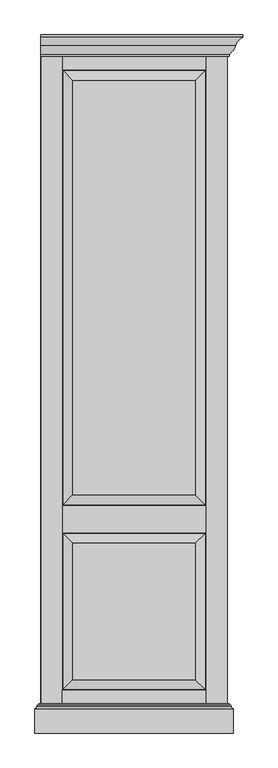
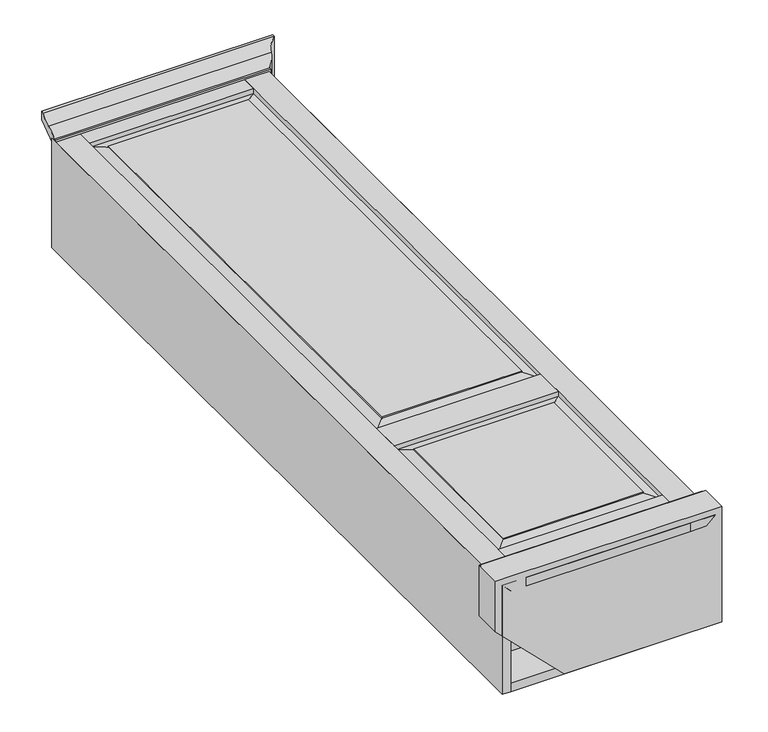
"""IFC4 building model written with IfcOpenShell, lengths in millimetres: proxy geometry, CCN^BRIGHTON_L4- RIGHT END WARDORBE-END DOOR PARTS SOLID."""

from ifc_helpers import new_model, si_unit, frame, origin, origin_with_axes, place, context, project, spatial, polyline, circle_curve, ellipse_curve, outline, extrude, faceted_brep, source, transform, mapped, element, save
from ifc_brep_helpers import plane_surface, cylinder_surface, revolved_surface, advanced_brep


def generic_models_ce6fbba6(model_context):
    return source(origin(), model_context, "Body", "SolidModel", [
        extrude(outline(polyline([(584.2, 2209.8), (558.8, 2209.8), (558.8, 2228.85), (584.2, 2228.85), (584.2, 2209.8)])), origin_with_axes(), (0.0, 0.0, 1.0), 285.75),
        extrude(outline(polyline([(304.8, 558.8), (330.2, 584.2), (330.2, 514.35), (304.8, 514.35), (304.8, 558.8)])), frame((0.0, 0.0, 0.0), z_axis=(0.0, 1.0, 0.0), x_axis=(0.0, 0.0, 1.0)), (0.0, 0.0, 1.0), 2228.85),
        extrude(outline(polyline([(44.45, 0.0), (44.45, 139.7), (514.35, 139.7), (514.35, 0.0), (44.45, 0.0)])), frame((0.0, 0.0, 304.8), z_axis=(0.0, 0.0, 1.0), x_axis=(1.0, 0.0, 0.0)), (0.0, 0.0, 1.0), 25.4),
        advanced_brep(
        [(152.4, 0.0, 0.0), (152.4, 95.25, 0.0), (590.55, 95.25, 0.0), (590.55, 92.075, 0.0), (596.9, 85.725, 0.0), (603.25, 79.375, 0.0), (603.25, 0.0, 0.0), (-31.75, 95.25, 184.15), (-31.75, 95.25, 336.55), (590.55, 95.25, 336.55), (603.25, 0.0, 349.25), (-44.45, 0.0, 349.25), (-44.45, 0.0, 196.85), (-44.45, 79.375, 196.85), (-38.1, 85.725, 190.5), (-31.75, 92.075, 184.15), (-31.75, 92.075, 336.55), (-38.1, 85.725, 342.9), (-44.45, 79.375, 349.25), (603.25, 79.375, 349.25), (596.9, 85.725, 342.9), (590.55, 92.075, 336.55)],
        [
            (0, 1),
            (1, 2),
            (2, 3),
            (3, 4, circle_curve(frame((590.55, 85.725, 0.0), z_axis=(0.0, 0.0, -1.0), x_axis=(-1.0, 0.0, 0.0)), 6.35)),
            (4, 5, circle_curve(frame((603.25, 85.725, 0.0), z_axis=(0.0, 0.0, 1.0), x_axis=(-1.0, 0.0, 0.0)), 6.35)),
            (5, 6),
            (6, 0),
            (1, 7),
            (7, 8),
            (8, 9),
            (9, 2),
            (6, 10),
            (10, 11),
            (11, 12),
            (12, 0),
            (12, 13),
            (13, 14, ellipse_curve(frame((-44.45, 85.725, 196.85), z_axis=(0.7071067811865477, 0.0, 0.7071067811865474), x_axis=(-0.7071067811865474, 0.0, 0.7071067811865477)), 8.9802561, 6.35)),
            (14, 15, ellipse_curve(frame((-31.75, 85.725, 184.15), z_axis=(-0.7071067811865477, 0.0, -0.7071067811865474), x_axis=(-0.7071067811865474, 0.0, 0.7071067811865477)), 8.9802561, 6.35)),
            (15, 7),
            (15, 16),
            (16, 8),
            (14, 17),
            (17, 16, ellipse_curve(frame((-31.75, 85.725, 336.55), z_axis=(-0.7071067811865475, 0.0, -0.7071067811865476), x_axis=(-0.7071067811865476, 0.0, 0.7071067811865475)), 8.9802561, 6.35)),
            (13, 18),
            (18, 17, ellipse_curve(frame((-44.45, 85.725, 349.25), z_axis=(0.7071067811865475, 0.0, 0.7071067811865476), x_axis=(-0.7071067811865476, 0.0, 0.7071067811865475)), 8.9802561, 6.35)),
            (11, 18),
            (18, 19),
            (19, 20, ellipse_curve(frame((603.25, 85.725, 349.25), z_axis=(0.7071067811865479, 0.0, -0.7071067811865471), x_axis=(0.7071067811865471, 0.0, 0.7071067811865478)), 8.9802561, 6.35)),
            (20, 17),
            (9, 21),
            (21, 3),
            (21, 20, ellipse_curve(frame((590.55, 85.725, 336.55), z_axis=(0.7071067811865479, 0.0, -0.7071067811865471), x_axis=(-0.7071067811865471, 0.0, -0.7071067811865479)), 8.9802561, 6.35)),
            (20, 4),
            (19, 5),
            (16, 21),
            (19, 10),
        ],
        [
            plane_surface(frame((603.25, 0.0, 0.0), z_axis=(0.0, 0.0, -1.0), x_axis=(-1.0, 0.0, 0.0))),
            plane_surface(frame((288.925, 95.25, 174.625), z_axis=(0.0, 1.0, 0.0), x_axis=(0.0, 0.0, 1.0))),
            plane_surface(frame((288.925, 0.0, 174.625), z_axis=(0.0, -1.0, 0.0), x_axis=(0.0, 0.0, -1.0))),
            plane_surface(frame((-34.925, 63.5, 187.325), z_axis=(-0.7071067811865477, 0.0, -0.7071067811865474), x_axis=(-0.7071067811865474, 0.0, 0.7071067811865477))),
            plane_surface(frame((-31.75, 95.25, 0.0), z_axis=(-1.0, 0.0, 0.0), x_axis=(0.0, -1.0, 0.0))),
            cylinder_surface(frame((-31.75, 85.725, 0.0), z_axis=(0.0, 0.0, 1.0), x_axis=(-1.0, 0.0, 0.0)), 6.35),
            revolved_surface(polyline([(-50.800000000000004, 85.725, 355.5999999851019), (-50.800000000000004, 85.725, 190.5)]), (-44.45, 85.725, 0.0), (0.0, 0.0, 1.0)),
            plane_surface(frame((-44.45, 79.375, 0.0), z_axis=(-1.0, 0.0, 0.0), x_axis=(0.0, -1.0, 0.0))),
            revolved_surface(polyline([(609.5999999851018, 85.725, 342.9), (-50.79999998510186, 85.725, 342.9)]), (-25.4, 85.725, 349.25), (1.0, 0.0, 0.0)),
            plane_surface(frame((590.55, 92.075, 336.55), z_axis=(1.0, 0.0, 0.0), x_axis=(0.0, 1.0, 0.0))),
            cylinder_surface(frame((590.55, 85.725, 336.55), z_axis=(0.0, 0.0, -1.0), x_axis=(-1.0, 0.0, 0.0)), 6.35),
            revolved_surface(polyline([(596.9, 85.725, 0.0), (596.9, 85.725, 355.5999999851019)]), (603.25, 85.725, 349.25), (0.0, 0.0, -1.0)),
            plane_surface(frame((-25.4, 92.075, 336.55), z_axis=(0.0, 0.0, 1.0), x_axis=(0.0, 1.0, 0.0))),
            cylinder_surface(frame((-25.4, 85.725, 336.55), z_axis=(1.0, 0.0, 0.0), x_axis=(0.0, 0.0, -1.0)), 6.35),
            plane_surface(frame((603.25, 0.0, 349.25), z_axis=(1.0, 0.0, 0.0), x_axis=(0.0, 0.0, -1.0))),
            plane_surface(frame((-25.4, 0.0, 349.25), z_axis=(0.0, 0.0, 1.0), x_axis=(1.0, 0.0, 0.0))),
        ],
        [
            (0, [[1, 2, 3, 4, 5, 6, 7]]),
            (1, [[-2, 8, 9, 10, 11]]),
            (2, [[-7, 12, 13, 14, 15]]),
            (3, [[-15, 16, 17, 18, 19, -8, -1]]),
            (4, [[-19, 20, 21, -9]]),
            (5, [[-18, 22, 23, -20]]),
            (6, [[-17, 24, 25, -22]]),
            (7, [[-16, -14, 26, -24]]),
            (8, [[-25, 27, 28, 29]]),
            (9, [[30, 31, -3, -11]]),
            (10, [[32, 33, -4, -31]]),
            (11, [[-28, 34, -5, -33]]),
            (12, [[-21, 35, -30, -10]]),
            (13, [[-23, -29, -32, -35]]),
            (14, [[-34, 36, -12, -6]]),
            (15, [[-27, -26, -13, -36]]),
        ],
    ),
        extrude(outline(polyline([(304.8, 0.0), (330.2, -25.4), (0.0, -25.4), (0.0, 0.0), (304.8, 0.0)])), frame((0.0, 0.0, 0.0), z_axis=(0.0, 1.0, 0.0), x_axis=(0.0, 0.0, 1.0)), (0.0, 0.0, 1.0), 2228.85),
        advanced_brep(
        [(560.6345153, 2209.8, 0.0), (609.5440118, 2279.65, 0.0), (635.0, 2279.65, 0.0), (635.0, 2271.7252, 0.0), (610.9133719, 2245.7438145, 0.0), (589.7626, 2216.5400246, 0.0), (589.7626, 2209.8, 0.0), (560.6345153, 2209.8, 306.6345153), (589.7626, 2209.8, 335.7626), (-25.4, 2209.8, 335.7626), (-25.4, 2209.8, 306.6345153), (609.5440118, 2279.65, 355.5440118), (-25.4, 2279.65, 355.5440118), (-25.4, 2216.5400246, 335.7626), (-25.4, 2245.7438145, 356.9133719), (-25.4, 2271.7252, 381.0), (-25.4, 2279.65, 381.0), (635.0, 2279.65, 381.0), (635.0, 2271.7252, 381.0), (610.9133719, 2245.7438145, 356.9133719), (589.7626, 2216.5400246, 335.7626)],
        [
            (0, 1),
            (1, 2),
            (2, 3),
            (3, 4, circle_curve(frame((647.6933509, 2235.8018254, 0.0), z_axis=(0.0, 0.0, 1.0), x_axis=(-1.0, 0.0, 0.0)), 38.1)),
            (4, 5, circle_curve(frame((561.8734, 2258.9998, 0.0), z_axis=(0.0, 0.0, -1.0), x_axis=(-1.0, 0.0, 0.0)), 50.8)),
            (5, 6),
            (6, 0),
            (7, 0),
            (6, 8),
            (8, 9),
            (9, 10),
            (10, 7),
            (7, 11),
            (11, 1),
            (12, 10),
            (9, 13),
            (13, 14, circle_curve(frame((-25.4, 2258.9998, 307.8734), z_axis=(-1.0, 0.0, 0.0), x_axis=(0.0, 0.8358223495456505, -0.5489999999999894)), 50.8)),
            (14, 15, circle_curve(frame((-25.4, 2235.8018254, 393.6933509), z_axis=(1.0, 0.0, 0.0), x_axis=(0.0, 0.942870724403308, -0.3331588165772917)), 38.1)),
            (15, 16),
            (16, 12),
            (12, 11),
            (16, 17),
            (17, 2),
            (18, 19, ellipse_curve(frame((647.6933509, 2235.8018254, 393.6933509), z_axis=(-0.7071067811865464, 0.0, 0.7071067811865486), x_axis=(-0.7071067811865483, 0.0, -0.7071067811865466)), 53.8815367, 38.1)),
            (19, 4),
            (3, 18),
            (19, 20, ellipse_curve(frame((561.8734, 2258.9998, 307.8734), z_axis=(0.7071067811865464, 0.0, -0.7071067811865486), x_axis=(-0.7071067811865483, 0.0, -0.7071067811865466)), 71.842049, 50.8)),
            (20, 5),
            (20, 8),
            (14, 19),
            (18, 15),
            (13, 20),
            (17, 18),
        ],
        [
            plane_surface(frame((635.0, 2228.85, 0.0), z_axis=(0.0, 0.0, -1.0), x_axis=(-1.0, 0.0, 0.0))),
            plane_surface(frame((279.4, 2209.8, 355.6), z_axis=(0.0, -1.0, 0.0), x_axis=(0.0, 0.0, -1.0))),
            plane_surface(frame((609.5440118, 2279.65, 355.5440118), z_axis=(-0.8191520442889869, 0.5735764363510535, 0.0), x_axis=(-0.4975428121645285, -0.7105647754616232, -0.497542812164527))),
            plane_surface(frame((-25.4, 2279.65, 44.45), z_axis=(-1.0, 0.0, 0.0), x_axis=(0.0, 0.0, 1.0))),
            plane_surface(frame((-25.4, 2279.65, 355.5440118), z_axis=(0.0, 0.5735764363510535, -0.8191520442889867), x_axis=(0.0, -0.8191520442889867, -0.5735764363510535))),
            plane_surface(frame((279.4, 2279.65, 355.6), z_axis=(0.0, 1.0, 0.0), x_axis=(0.0, 0.0, 1.0))),
            revolved_surface(polyline([(609.5933509, 2235.8018254, 0.0), (609.5933509, 2235.8018254, 431.79335088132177)]), (647.6933509, 2235.8018254, 393.6933509), (0.0, 0.0, -1.0)),
            cylinder_surface(frame((561.8734, 2258.9998, 307.8734), z_axis=(0.0, 0.0, -1.0), x_axis=(-1.0, 0.0, 0.0)), 50.8),
            plane_surface(frame((589.7626, 2209.8, 335.7626), z_axis=(1.0, 0.0, 0.0), x_axis=(0.0, 1.0, 0.0))),
            revolved_surface(polyline([(685.7933508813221, 2271.725199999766, 380.9999999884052), (-25.4, 2271.725199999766, 380.9999999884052)]), (-25.4, 2235.8018254, 393.6933509), (1.0000000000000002, 0.0, 0.0)),
            cylinder_surface(frame((-25.4, 2258.9998, 307.8734), z_axis=(0.9999999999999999, 0.0, 0.0), x_axis=(0.0, 0.8358223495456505, -0.5489999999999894)), 50.8),
            plane_surface(frame((-25.4, 2209.8, 335.7626), z_axis=(0.0, 0.0, 1.0), x_axis=(0.0, 1.0, 0.0))),
            plane_surface(frame((635.0, 2228.85, 381.0), z_axis=(1.0, 0.0, 0.0), x_axis=(0.0, 0.0, -1.0))),
            plane_surface(frame((-25.4, 2228.85, 381.0), z_axis=(0.0, 0.0, 1.0), x_axis=(1.0, 0.0, 0.0))),
        ],
        [
            (0, [[1, 2, 3, 4, 5, 6, 7]]),
            (1, [[8, -7, 9, 10, 11, 12]]),
            (2, [[-1, -8, 13, 14]]),
            (3, [[15, -11, 16, 17, 18, 19, 20]]),
            (4, [[-15, 21, -13, -12]]),
            (5, [[-20, 22, 23, -2, -14, -21]]),
            (6, [[24, 25, -4, 26]]),
            (7, [[27, 28, -5, -25]]),
            (8, [[29, -9, -6, -28]]),
            (9, [[-18, 30, -24, 31]]),
            (10, [[-17, 32, -27, -30]]),
            (11, [[-16, -10, -29, -32]]),
            (12, [[-26, -3, -23, 33]]),
            (13, [[-19, -31, -33, -22]]),
        ],
    ),
        extrude(outline(polyline([(330.2, -25.4), (304.8, 0.0), (304.8, 44.45), (330.2, 44.45), (330.2, -25.4)])), frame((0.0, 0.0, 0.0), z_axis=(0.0, 1.0, 0.0), x_axis=(0.0, 0.0, 1.0)), (0.0, 0.0, 1.0), 2228.85),
        extrude(outline(polyline([(514.35, 654.05), (44.45, 654.05), (44.45, 742.95), (514.35, 742.95), (514.35, 654.05)])), frame((0.0, 0.0, 304.8), z_axis=(0.0, 0.0, 1.0), x_axis=(1.0, 0.0, 0.0)), (0.0, 0.0, 1.0), 25.4),
        extrude(outline(polyline([(44.45, 2165.35), (44.45, 2228.85), (514.35, 2228.85), (514.35, 2165.35), (44.45, 2165.35)])), frame((0.0, 0.0, 304.8), z_axis=(0.0, 0.0, 1.0), x_axis=(1.0, 0.0, 0.0)), (0.0, 0.0, 1.0), 25.4),
        extrude(outline(polyline([(0.0, 2228.85), (558.8, 2228.85), (558.8, 2209.8), (0.0, 2209.8), (0.0, 2228.85)])), frame((0.0, 0.0, 25.4), z_axis=(0.0, 0.0, 1.0), x_axis=(1.0, 0.0, 0.0)), (0.0, 0.0, 1.0), 279.4),
        extrude(outline(polyline([(558.8, 95.25), (584.2, 95.25), (584.2, 0.0), (558.8, 0.0), (558.8, 95.25)])), origin_with_axes(), (0.0, 0.0, 1.0), 285.75),
        extrude(outline(polyline([(304.8, 558.8), (285.75, 558.8), (285.75, 584.2), (330.2, 584.2), (304.8, 558.8)])), frame((0.0, 0.0, 0.0), z_axis=(0.0, 1.0, 0.0), x_axis=(0.0, 0.0, 1.0)), (0.0, 0.0, 1.0), 2228.85),
        extrude(outline(polyline([(558.8, 98.425), (558.8, 2206.625), (584.2, 2206.625), (584.2, 98.425), (558.8, 98.425)])), frame((0.0, 0.0, 3.175), z_axis=(0.0, 0.0, 1.0), x_axis=(1.0, 0.0, 0.0)), (0.0, 0.0, 1.0), 279.4),
        extrude(outline(polyline([(0.0, 139.7), (558.8, 139.7), (558.8, 120.65), (0.0, 120.65), (0.0, 139.7)])), frame((0.0, 0.0, 25.4), z_axis=(0.0, 0.0, 1.0), x_axis=(1.0, 0.0, 0.0)), (0.0, 0.0, 1.0), 279.4),
        faceted_brep([(479.425, 174.625, 330.2), (479.425, 174.625, 327.025), (479.425, 619.125, 327.025), (479.425, 619.125, 330.2), (511.175, 142.875, 318.5176131), (511.175, 650.875, 318.5176131), (511.175, 142.875, 311.15), (511.175, 650.875, 311.15), (79.375, 174.625, 330.2), (79.375, 174.625, 327.025), (47.625, 142.875, 318.5176131), (47.625, 142.875, 311.15), (514.35, 654.05, 311.15), (44.45, 654.05, 311.15), (44.45, 139.7, 311.15), (514.35, 139.7, 311.15), (47.625, 650.875, 311.15), (79.375, 619.125, 330.2), (79.375, 619.125, 327.025), (47.625, 650.875, 318.5176131), (514.35, 139.7, 304.8), (514.35, 654.05, 304.8), (44.45, 139.7, 304.8), (44.45, 654.05, 304.8)], [[[0, 1, 2, 3]], [[1, 4, 5, 2]], [[4, 6, 7, 5]], [[8, 9, 1, 0]], [[9, 10, 4, 1]], [[10, 11, 6, 4]], [[12, 13, 14, 15], [11, 16, 7, 6]], [[17, 18, 9, 8]], [[18, 19, 10, 9]], [[19, 16, 11, 10]], [[3, 2, 18, 17]], [[2, 5, 19, 18]], [[5, 7, 16, 19]], [[12, 15, 20, 21]], [[15, 14, 22, 20]], [[13, 12, 21, 23]], [[14, 13, 23, 22]], [[0, 3, 17, 8]], [[20, 22, 23, 21]]]),
        extrude(outline(polyline([(558.8, 2228.85), (558.8, 0.0), (0.0, 0.0), (0.0, 2228.85), (558.8, 2228.85)])), origin_with_axes(), (0.0, 0.0, 1.0), 25.4),
        faceted_brep([(479.425, 777.875, 330.2), (479.425, 777.875, 327.025), (479.425, 2130.425, 327.025), (479.425, 2130.425, 330.2), (511.175, 746.125, 318.5176131), (511.175, 2162.175, 318.5176131), (511.175, 746.125, 311.15), (511.175, 2162.175, 311.15), (79.375, 777.875, 330.2), (79.375, 777.875, 327.025), (47.625, 746.125, 318.5176131), (47.625, 746.125, 311.15), (514.35, 2165.35, 311.15), (44.45, 2165.35, 311.15), (44.45, 742.95, 311.15), (514.35, 742.95, 311.15), (47.625, 2162.175, 311.15), (79.375, 2130.425, 330.2), (79.375, 2130.425, 327.025), (47.625, 2162.175, 318.5176131), (514.35, 742.95, 304.8), (514.35, 2165.35, 304.8), (44.45, 742.95, 304.8), (44.45, 2165.35, 304.8)], [[[0, 1, 2, 3]], [[1, 4, 5, 2]], [[4, 6, 7, 5]], [[8, 9, 1, 0]], [[9, 10, 4, 1]], [[10, 11, 6, 4]], [[12, 13, 14, 15], [11, 16, 7, 6]], [[17, 18, 9, 8]], [[18, 19, 10, 9]], [[19, 16, 11, 10]], [[3, 2, 18, 17]], [[2, 5, 19, 18]], [[5, 7, 16, 19]], [[12, 15, 20, 21]], [[15, 14, 22, 20]], [[13, 12, 21, 23]], [[14, 13, 23, 22]], [[0, 3, 17, 8]], [[20, 22, 23, 21]]]),
    ])


if __name__ == "__main__":
    model = new_model("IFC4")
    model_context = context("Model", 3, world=origin())
    ifc_project = project(units=[si_unit("LENGTHUNIT", "METRE", prefix="MILLI")], contexts=[model_context])
    site = spatial("IfcSite", under=ifc_project)
    building = spatial("IfcBuilding", under=site)
    placement = place(None, origin())
    generic_models_shape = generic_models_ce6fbba6(model_context)
    element("IfcBuildingElementProxy", 1, Name="CCN^BRIGHTON_L4- RIGHT END WARDORBE-END DOOR PARTS SOLID", ObjectType="CCN^BRIGHTON_L4- RIGHT END WARDORBE-END DOOR PARTS SOLID", at=placement, inside=building, context=model_context, shape_type="MappedRepresentation", body=[
        mapped(generic_models_shape, transform((0.0, 0.0, 0.0), x_axis=(1.0, 0.0, 0.0), y_axis=(0.0, 1.0, 0.0), z_axis=(0.0, 0.0, 1.0))),
    ])
    save(model, "model.ifc")
